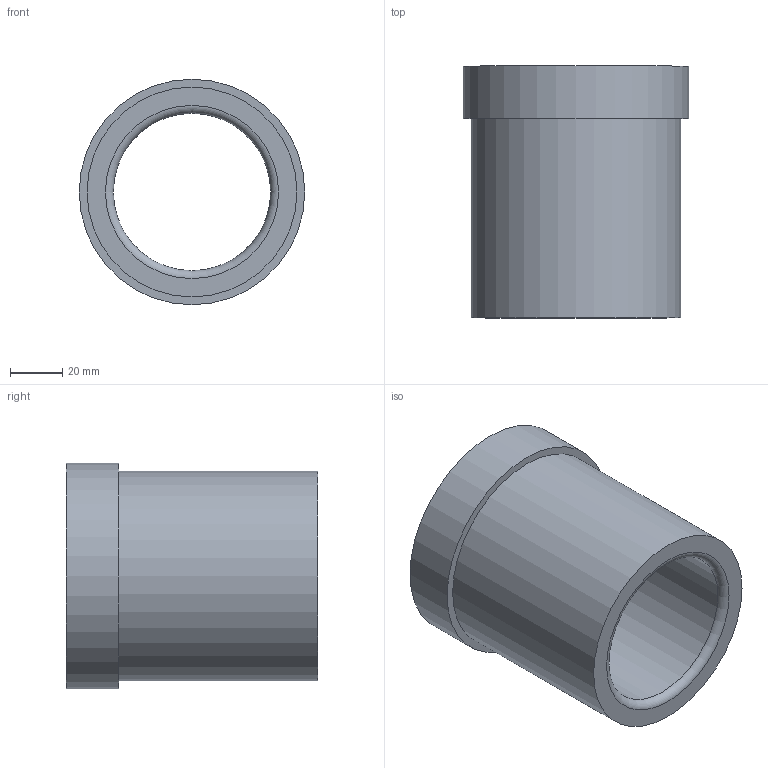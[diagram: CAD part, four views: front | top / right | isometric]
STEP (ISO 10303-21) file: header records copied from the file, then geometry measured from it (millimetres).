
FILE_DESCRIPTION(/* description */ ('STEP AP214'),/* implementation_level */ '2;1');
FILE_NAME(/* name */ '03_12_17963',/* time_stamp */ '2023-06-15T11:35:49+02:00',/* author */ ('License CC BY-ND 4.0'),/* organization */ ('CADENAS'),/* preprocessor_version */ 'ST-DEVELOPER v19.3',/* originating_system */ 'PARTsolutions',/* authorisation */ ' ');
FILE_SCHEMA (('AUTOMOTIVE_DESIGN {1 0 10303 214 3 1 1}'));
Length unit declared in the file: millimetre
Products named in the file (1): VA_Bushing_17963
Bounding box: 86 x 96 x 86 mm (x, y, z)
Volume: 224921 mm3; surface area: 48119.1 mm2
Topology: 1 solids, 1 shells, 10 faces, 16 edges, 10 vertices
Faces by surface type: cylinder 4, plane 4, torus 2
Full cylindrical faces by diameter (mm): 60 x1, 60.6 x1, 80 x1, 86 x1
Entity records: 302 total; most frequent: DIRECTION 42, CARTESIAN_POINT 31, AXIS2_PLACEMENT_3D 21, ORIENTED_EDGE 20, EDGE_LOOP 20, FACE_BOUND 20, EDGE_CURVE 10, VERTEX_POINT 10
